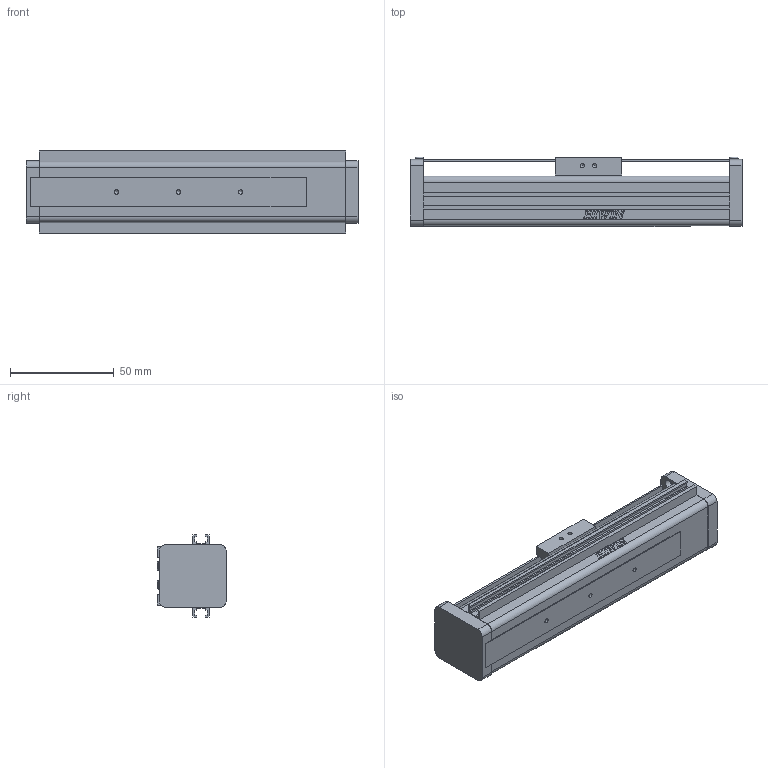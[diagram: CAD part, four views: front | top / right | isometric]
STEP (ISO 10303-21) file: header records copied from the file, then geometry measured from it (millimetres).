
FILE_DESCRIPTION(/* description */ (''),/* implementation_level */ '2;1');
FILE_NAME(/* name */ 'D:\混合母檔20191031\混和母檔\混和母檔\bin\Debug\Download\3D\KE301C-50AF0\KE301C-50AF0.stp',/* time_stamp */ '2019-11-04T13:27:39+08:00',/* author */ ('user'),/* organization */ (''),/* preprocessor_version */ 'ST-DEVELOPER v16.13',/* originating_system */ 'Autodesk Inventor 2018',/* authorisation */ '');
FILE_SCHEMA (('AUTOMOTIVE_DESIGN { 1 0 10303 214 3 1 1 }'));
Length unit declared in the file: millimetre
Products named in the file (3): KE301C-50AF0; KE30-F0-BP; KE30-SL
Assembly tree (2 placements, depth 2):
  KE301C-50AF0
    KE30-F0-BP
    KE30-SL
Bounding box: 160 x 33.67 x 39.6 mm (x, y, z)
Volume: 121357.4 mm3; surface area: 36430.8 mm2
Topology: 2 solids, 6 shells, 451 faces, 1232 edges, 809 vertices
Faces by surface type: plane 264, bspline 114, cylinder 50, cone 15, torus 8
Full cylindrical faces by diameter (mm): 2.013 x4, 2.113 x3, 2.184 x4, 2.459 x4, 2.5 x4, 3 x4, 4 x1, 4.166 x4, 5 x2, 6 x2, 18 x1, 22 x1
Entity records: 18375 total; most frequent: CARTESIAN_POINT 7904, ORIENTED_EDGE 2298, DIRECTION 1698, EDGE_CURVE 1149, LINE 784, VECTOR 784, VERTEX_POINT 783, EDGE_LOOP 540
